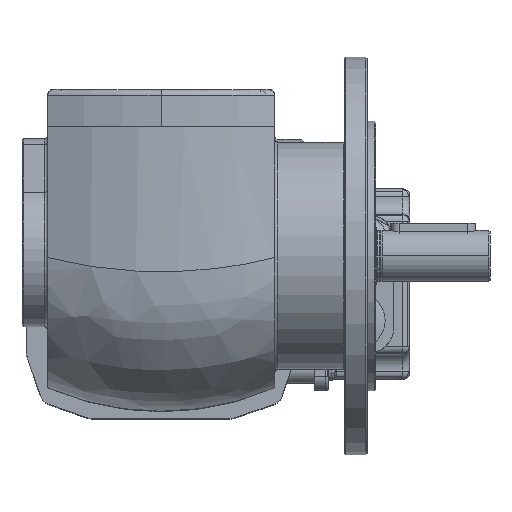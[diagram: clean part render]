
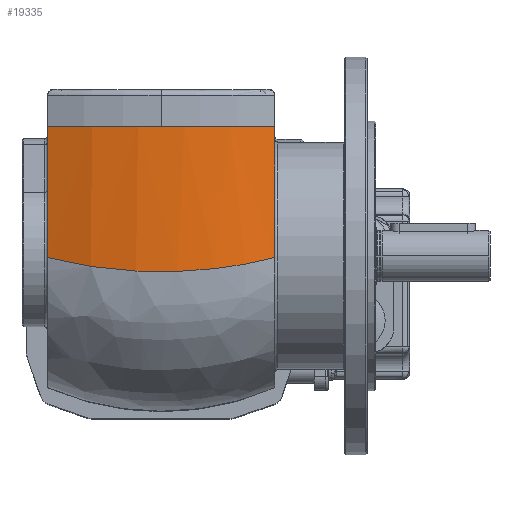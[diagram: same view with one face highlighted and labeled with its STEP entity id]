
A CAD part, top view. The second image highlights one B-rep face of the part: STEP entity #19335.
In plain terms, the highlighted cylindrical face has radius 109 mm (diameter 218 mm), a partial arc.
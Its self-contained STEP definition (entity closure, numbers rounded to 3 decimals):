
#1153 = CARTESIAN_POINT ( 'NONE',  ( 3.37, 123.577, 12.846 ) ) ;
#1313 = CARTESIAN_POINT ( 'NONE',  ( 3.083, 123.141, 11.203 ) ) ;
#1509 = CARTESIAN_POINT ( 'NONE',  ( 54.6, 119.395, 0. ) ) ;
#1596 = CARTESIAN_POINT ( 'NONE',  ( 3.762, 124.176, 15.335 ) ) ;
#1990 = EDGE_CURVE ( 'NONE', #8128, #2028, #15573, .T. ) ;
#2028 = VERTEX_POINT ( 'NONE', #13854 ) ;
#2284 = AXIS2_PLACEMENT_3D ( 'NONE', #3256, #8159, #15080 ) ;
#2581 = ORIENTED_EDGE ( 'NONE', *, *, #15016, .T. ) ;
#3256 = CARTESIAN_POINT ( 'NONE',  ( -45.4, 18., 40. ) ) ;
#3460 = B_SPLINE_CURVE_WITH_KNOTS ( 'NONE', 3,
 ( #10511, #15733, #5901, #18048, #29305, #25121, #20341, #4046, #20060, #8371, #29917, #8837, #15266, #27444, #13415, #13276, #12829, #3591, #20515, #24547, #1596, #1153, #1313, #22206, #10953, #19895 ),
 .UNSPECIFIED., .F., .F.,
 ( 4, 2, 2, 2, 2, 2, 2, 2, 2, 2, 2, 2, 4 ),
 ( 0., 0.01, 0.016, 0.021, 0.031, 0.036, 0.041, 0.052, 0.062, 0.065, 0.067, 0.073, 0.083 ),
 .UNSPECIFIED. ) ;
#3591 = CARTESIAN_POINT ( 'NONE',  ( 4.234, 124.899, 18.685 ) ) ;
#4046 = CARTESIAN_POINT ( 'NONE',  ( 4.758, 125.702, 57.117 ) ) ;
#5798 = CYLINDRICAL_SURFACE ( 'NONE', #13994, 109. ) ;
#5901 = CARTESIAN_POINT ( 'NONE',  ( 2.151, 121.724, 73.673 ) ) ;
#6054 = VECTOR ( 'NONE', #17327, 1000. ) ;
#8128 = VERTEX_POINT ( 'NONE', #13668 ) ;
#8159 = DIRECTION ( 'NONE',  ( 1., 0., 0. ) ) ;
#8371 = CARTESIAN_POINT ( 'NONE',  ( 5.388, 126.672, 48.617 ) ) ;
#8677 = DIRECTION ( 'NONE',  ( -1., 0., 0. ) ) ;
#8837 = CARTESIAN_POINT ( 'NONE',  ( 5.573, 126.959, 43.456 ) ) ;
#10270 = FACE_OUTER_BOUND ( 'NONE', #16618, .T. ) ;
#10511 = CARTESIAN_POINT ( 'NONE',  ( 0.602, 119.395, 80. ) ) ;
#10944 = CARTESIAN_POINT ( 'NONE',  ( 54.6, 119.395, 80. ) ) ;
#10953 = CARTESIAN_POINT ( 'NONE',  ( 1.427, 120.63, 3.129 ) ) ;
#11086 = CIRCLE ( 'NONE', #2284, 109. ) ;
#11366 = EDGE_CURVE ( 'NONE', #13375, #23206, #22568, .T. ) ;
#11930 = ORIENTED_EDGE ( 'NONE', *, *, #11366, .T. ) ;
#12732 = DIRECTION ( 'NONE',  ( 0., 0., 1. ) ) ;
#12829 = CARTESIAN_POINT ( 'NONE',  ( 4.76, 125.705, 22.898 ) ) ;
#13276 = CARTESIAN_POINT ( 'NONE',  ( 5.074, 126.189, 26.289 ) ) ;
#13375 = VERTEX_POINT ( 'NONE', #26096 ) ;
#13415 = CARTESIAN_POINT ( 'NONE',  ( 5.494, 126.836, 33.111 ) ) ;
#13668 = CARTESIAN_POINT ( 'NONE',  ( 0.602, 119.395, 80. ) ) ;
#13764 = ORIENTED_EDGE ( 'NONE', *, *, #28051, .T. ) ;
#13854 = CARTESIAN_POINT ( 'NONE',  ( -45.4, 119.395, 80. ) ) ;
#13994 = AXIS2_PLACEMENT_3D ( 'NONE', #27146, #22556, #12732 ) ;
#15016 = EDGE_CURVE ( 'NONE', #8128, #13375, #3460, .T. ) ;
#15080 = DIRECTION ( 'NONE',  ( 0., 0., 1. ) ) ;
#15266 = CARTESIAN_POINT ( 'NONE',  ( 5.6, 127., 41.721 ) ) ;
#15573 = LINE ( 'NONE', #10944, #16121 ) ;
#15733 = CARTESIAN_POINT ( 'NONE',  ( 1.427, 120.63, 76.871 ) ) ;
#16121 = VECTOR ( 'NONE', #8677, 1000. ) ;
#16618 = EDGE_LOOP ( 'NONE', ( #24125, #2581, #11930, #13764 ) ) ;
#17327 = DIRECTION ( 'NONE',  ( -1., 0., 0. ) ) ;
#17687 = CARTESIAN_POINT ( 'NONE',  ( -45.4, 119.395, 0. ) ) ;
#18048 = CARTESIAN_POINT ( 'NONE',  ( 3.088, 123.148, 68.771 ) ) ;
#19335 = ADVANCED_FACE ( 'NONE', ( #10270 ), #5798, .T. ) ;
#19895 = CARTESIAN_POINT ( 'NONE',  ( 0.602, 119.395, 0. ) ) ;
#20060 = CARTESIAN_POINT ( 'NONE',  ( 5.072, 126.185, 53.737 ) ) ;
#20341 = CARTESIAN_POINT ( 'NONE',  ( 4.132, 124.742, 62.139 ) ) ;
#20515 = CARTESIAN_POINT ( 'NONE',  ( 4.122, 124.728, 17.843 ) ) ;
#22206 = CARTESIAN_POINT ( 'NONE',  ( 2.149, 121.722, 6.321 ) ) ;
#22556 = DIRECTION ( 'NONE',  ( -1., 0., 0. ) ) ;
#22568 = LINE ( 'NONE', #1509, #6054 ) ;
#23206 = VERTEX_POINT ( 'NONE', #17687 ) ;
#24125 = ORIENTED_EDGE ( 'NONE', *, *, #1990, .F. ) ;
#24547 = CARTESIAN_POINT ( 'NONE',  ( 3.886, 124.366, 16.168 ) ) ;
#25121 = CARTESIAN_POINT ( 'NONE',  ( 3.897, 124.383, 63.804 ) ) ;
#26096 = CARTESIAN_POINT ( 'NONE',  ( 0.602, 119.395, 0. ) ) ;
#27146 = CARTESIAN_POINT ( 'NONE',  ( 54.6, 18., 40. ) ) ;
#27444 = CARTESIAN_POINT ( 'NONE',  ( 5.6, 127., 36.543 ) ) ;
#28051 = EDGE_CURVE ( 'NONE', #23206, #2028, #11086, .T. ) ;
#29305 = CARTESIAN_POINT ( 'NONE',  ( 3.376, 123.586, 67.119 ) ) ;
#29917 = CARTESIAN_POINT ( 'NONE',  ( 5.467, 126.795, 46.902 ) ) ;
